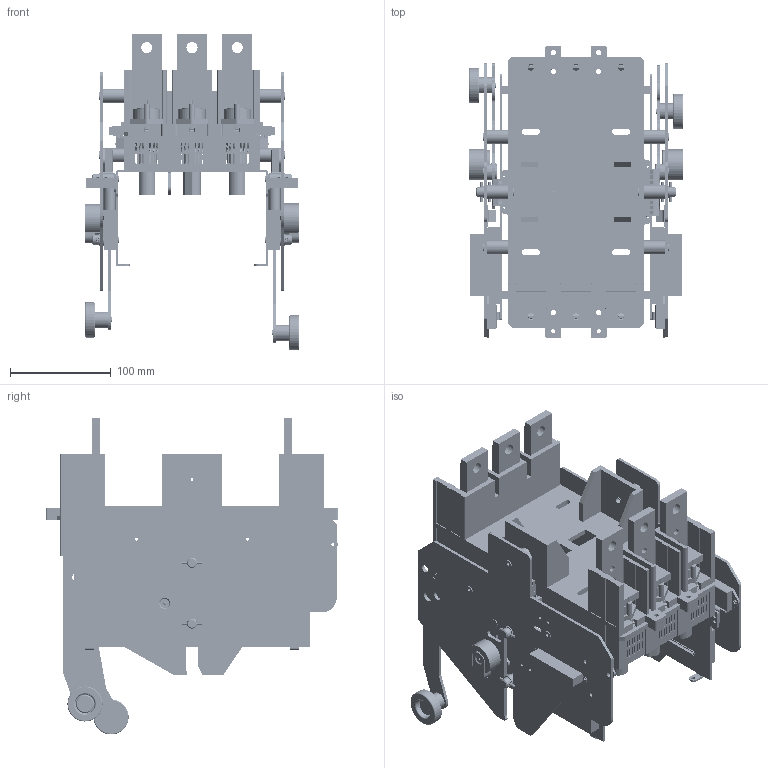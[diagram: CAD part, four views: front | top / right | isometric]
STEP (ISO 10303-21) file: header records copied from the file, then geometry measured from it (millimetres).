
FILE_DESCRIPTION (( 'STEP AP203' ), '1' );
FILE_NAME ('NDM5-400 630 ³é³öÊ½-°åºóË®Æ½.STEP', '2024-09-19T02:33:22', ( 'A' ), ( '' ), 'SwSTEP 2.0', 'SolidWorks 2018', '' );
FILE_SCHEMA (( 'CONFIG_CONTROL_DESIGN' ));
Length unit declared in the file: millimetre
Products named in the file (1): NDM5-400 630 喲堤宒-啣綴阨す
Bounding box: 213 x 291 x 315.14 mm (x, y, z)
Volume: 1619961.6 mm3; surface area: 890905.4 mm2
Topology: 211 solids, 211 shells, 7847 faces, 21117 edges, 13884 vertices
Faces by surface type: plane 4195, cylinder 3352, torus 110, cone 100, bspline 86, sphere 4
Entity records: 254880 total; most frequent: CARTESIAN_POINT 51005, DIRECTION 43423, ORIENTED_EDGE 42218, EDGE_CURVE 21109, AXIS2_PLACEMENT_3D 14838, VERTEX_POINT 13884, LINE 13747, VECTOR 13747
